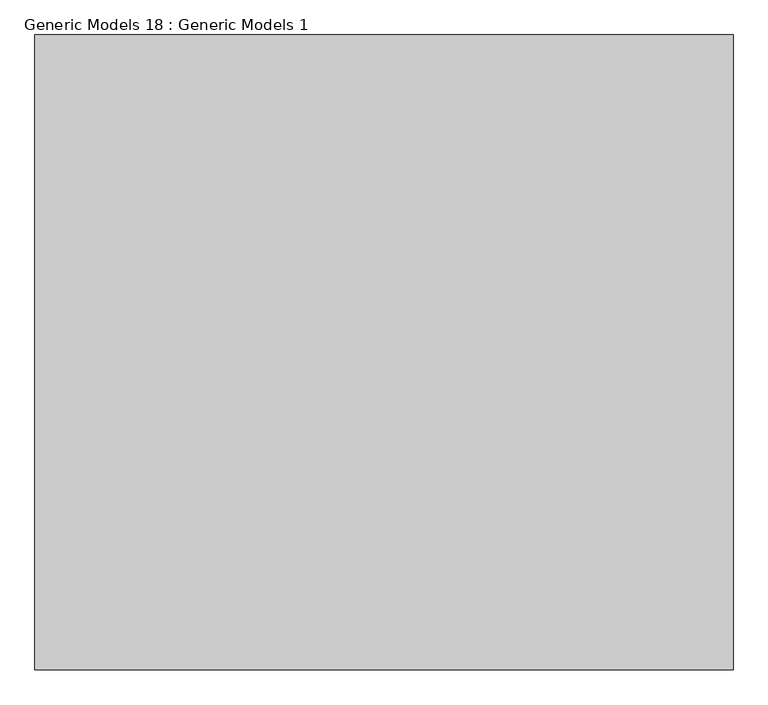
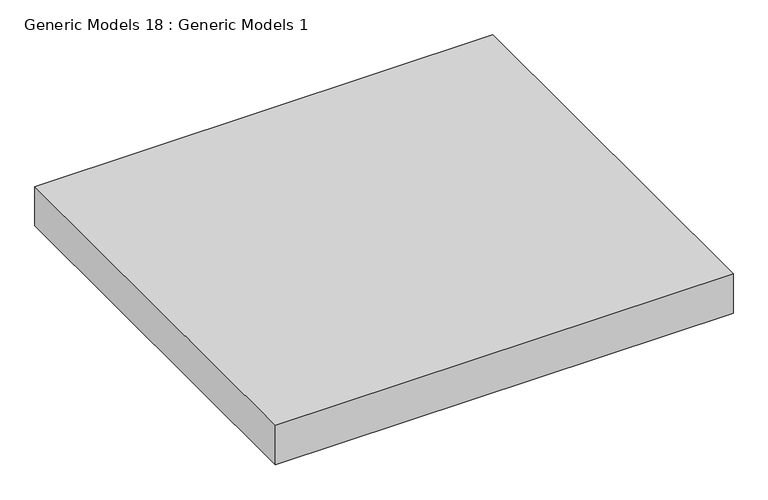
"""IFC4 building model written with IfcOpenShell, lengths in millimetres: proxy geometry, Generic Models 18 : Generic Models 1."""

from ifc_helpers import new_model, si_unit, origin, origin_with_axes, place, context, project, spatial, polyline, outline, extrude, source, transform, mapped, element, save


def generic_models_18_generic_models_1_cb23df02(model_context):
    return source(origin(), model_context, "Body", "SweptSolid", [
        extrude(outline(polyline([(8037.1851171, -5886.5772826), (8037.1851171, -4886.5772826), (9137.1851171, -4886.5772826), (9137.1851171, -5886.5772826), (8037.1851171, -5886.5772826)])), origin_with_axes(), (0.0, 0.0, 1.0), 100.0),
    ])


if __name__ == "__main__":
    model = new_model("IFC4")
    model_context = context("Model", 3, world=origin())
    ifc_project = project(units=[si_unit("LENGTHUNIT", "METRE", prefix="MILLI")], contexts=[model_context])
    site = spatial("IfcSite", under=ifc_project)
    building = spatial("IfcBuilding", under=site)
    placement = place(None, origin())
    generic_models_18_generic_models_1_shape = generic_models_18_generic_models_1_cb23df02(model_context)
    element("IfcBuildingElementProxy", 1, Name="Generic Models 18 : Generic Models 1", ObjectType="Generic Models 18 : Generic Models 1", at=placement, inside=building, context=model_context, shape_type="MappedRepresentation", body=[
        mapped(generic_models_18_generic_models_1_shape, transform((0.0, 0.0, 0.0), x_axis=(1.0, 0.0, 0.0), y_axis=(0.0, 1.0, 0.0), z_axis=(0.0, 0.0, 1.0))),
    ])
    save(model, "model.ifc")
